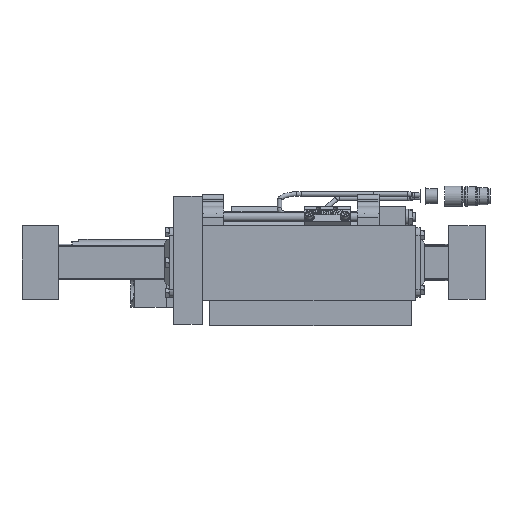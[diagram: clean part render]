
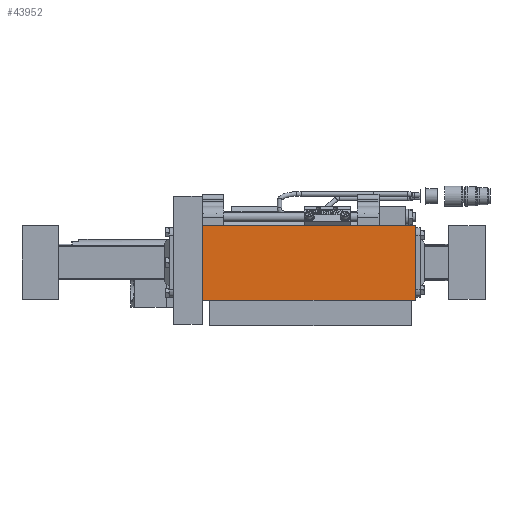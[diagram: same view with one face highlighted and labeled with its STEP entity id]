
A CAD part, left-side view. The second image highlights one B-rep face of the part: STEP entity #43952.
In plain terms, the highlighted planar face has unit normal (-1, 0, 0).
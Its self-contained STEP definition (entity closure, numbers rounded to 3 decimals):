
#2160=PLANE('',#47374);
#3894=FACE_OUTER_BOUND('',#6682,.T.);
#6682=EDGE_LOOP('',(#30879,#30880,#30881,#30882));
#9617=LINE('',#67173,#12846);
#9619=LINE('',#67177,#12848);
#9620=LINE('',#67179,#12849);
#9621=LINE('',#67180,#12850);
#12846=VECTOR('',#54076,10.);
#12848=VECTOR('',#54080,10.);
#12849=VECTOR('',#54081,10.);
#12850=VECTOR('',#54082,10.);
#18783=VERTEX_POINT('',#67170);
#18784=VERTEX_POINT('',#67172);
#18785=VERTEX_POINT('',#67176);
#18786=VERTEX_POINT('',#67178);
#23300=EDGE_CURVE('',#18784,#18783,#9617,.T.);
#23302=EDGE_CURVE('',#18783,#18785,#9619,.T.);
#23303=EDGE_CURVE('',#18786,#18785,#9620,.T.);
#23304=EDGE_CURVE('',#18786,#18784,#9621,.T.);
#30879=ORIENTED_EDGE('',*,*,#23302,.T.);
#30880=ORIENTED_EDGE('',*,*,#23303,.F.);
#30881=ORIENTED_EDGE('',*,*,#23304,.T.);
#30882=ORIENTED_EDGE('',*,*,#23300,.T.);
#43952=ADVANCED_FACE('',(#3894),#2160,.T.);
#47374=AXIS2_PLACEMENT_3D('',#67175,#54078,#54079);
#54076=DIRECTION('',(0.,-1.,0.));
#54078=DIRECTION('center_axis',(-1.,0.,0.));
#54079=DIRECTION('ref_axis',(0.,0.,
-1.));
#54080=DIRECTION('',(0.,0.,1.));
#54081=DIRECTION('',(0.,-1.,0.));
#54082=DIRECTION('',(0.,0.,-1.));
#67170=CARTESIAN_POINT('',(-97.,-73.,9.));
#67172=CARTESIAN_POINT('',(-97.,75.,9.));
#67173=CARTESIAN_POINT('',(-97.,75.,9.));
#67175=CARTESIAN_POINT('Origin',(-97.,75.,9.));
#67176=CARTESIAN_POINT('',(-97.,-73.,61.));
#67177=CARTESIAN_POINT('',(-97.,-73.,61.));
#67178=CARTESIAN_POINT('',(-97.,75.,61.));
#67179=CARTESIAN_POINT('',(-97.,75.,61.));
#67180=CARTESIAN_POINT('',(-97.,75.,61.));
